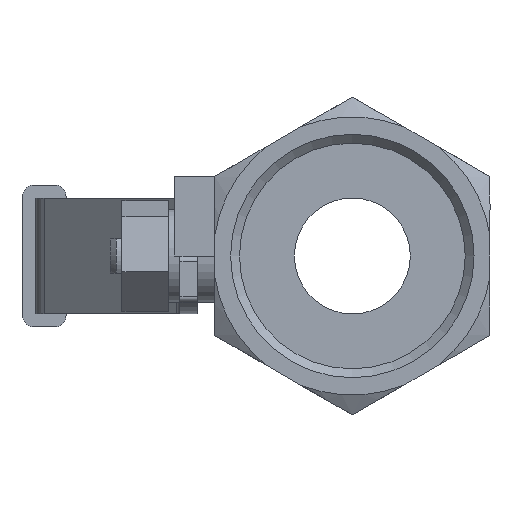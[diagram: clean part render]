
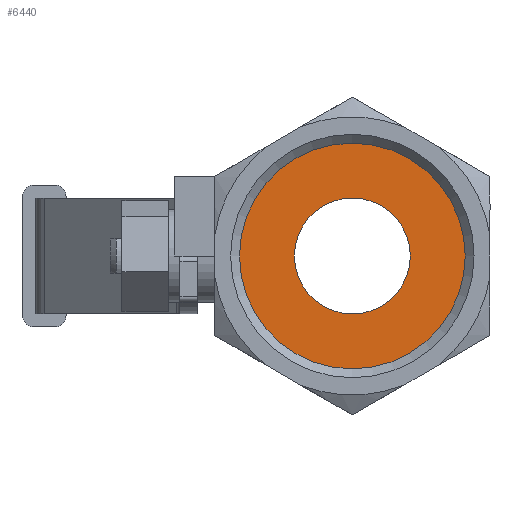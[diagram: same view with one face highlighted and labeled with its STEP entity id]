
A CAD part, left-side view. The second image highlights one B-rep face of the part: STEP entity #6440.
In plain terms, the highlighted planar face has unit normal (-1, 0, 0).
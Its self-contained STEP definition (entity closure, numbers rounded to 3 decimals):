
#137=FACE_BOUND('',#987,.T.);
#347=PLANE('',#6852);
#630=FACE_OUTER_BOUND('',#986,.T.);
#986=EDGE_LOOP('',(#5231));
#987=EDGE_LOOP('',(#5232));
#2474=CIRCLE('',#6566,10.);
#2533=CIRCLE('',#6851,19.476);
#2604=VERTEX_POINT('',#8632);
#3007=VERTEX_POINT('',#9930);
#3186=EDGE_CURVE('',#2604,#2604,#2474,.T.);
#3791=EDGE_CURVE('',#3007,#3007,#2533,.T.);
#5231=ORIENTED_EDGE('',*,*,#3791,.T.);
#5232=ORIENTED_EDGE('',*,*,#3186,.T.);
#6440=ADVANCED_FACE('',(#630,#137),#347,.T.);
#6566=AXIS2_PLACEMENT_3D('',#8633,#7028,#7029);
#6851=AXIS2_PLACEMENT_3D('',#9931,#8136,#8137);
#6852=AXIS2_PLACEMENT_3D('',#9933,#8139,#8140);
#7028=DIRECTION('center_axis',(1.,0.,0.));
#7029=DIRECTION('ref_axis',(0.,0.,-1.));
#8136=DIRECTION('center_axis',(-1.,0.,0.));
#8137=DIRECTION('ref_axis',(0.,0.,1.));
#8139=DIRECTION('center_axis',(-1.,0.,0.));
#8140=DIRECTION('ref_axis',(0.,0.,1.));
#8632=CARTESIAN_POINT('',(-58.471,-13.408,10.));
#8633=CARTESIAN_POINT('Origin',(-58.471,-13.408,0.));
#9930=CARTESIAN_POINT('',(-58.471,-13.408,-19.476));
#9931=CARTESIAN_POINT('Origin',(-58.471,-13.408,0.));
#9933=CARTESIAN_POINT('Origin',(-58.471,-13.408,0.));
